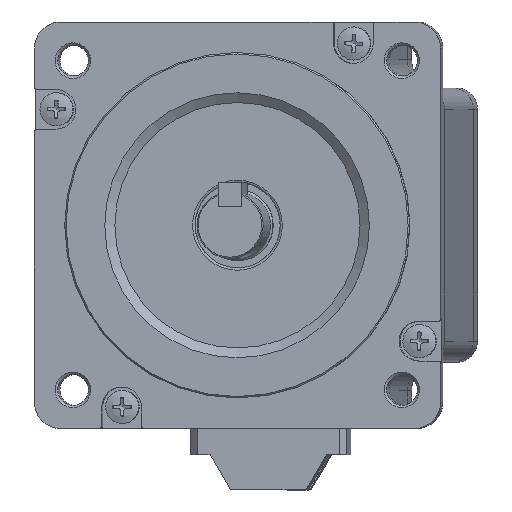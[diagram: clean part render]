
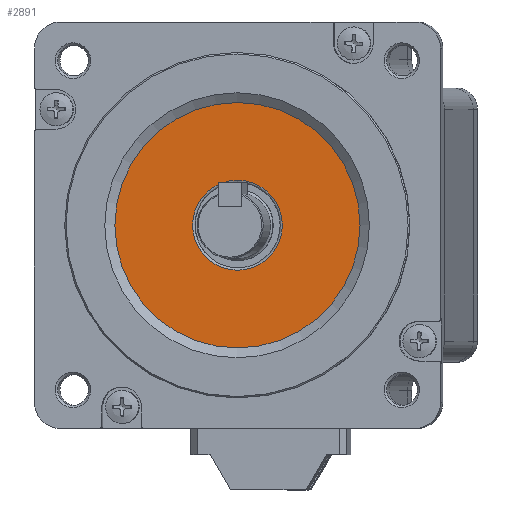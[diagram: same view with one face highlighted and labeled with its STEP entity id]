
A CAD part, front view. The second image highlights one B-rep face of the part: STEP entity #2891.
In plain terms, the highlighted planar face has unit normal (-0.05, -0.999, 0) as drawn and (0, -1, 0) by its records, which use the part's own axes.
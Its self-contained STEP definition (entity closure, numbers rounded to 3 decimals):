
#60=CARTESIAN_POINT('',(25.935,-17.1,0.));
#61=VERTEX_POINT('',#60);
#68=CARTESIAN_POINT('',(0.,-17.1,0.));
#69=DIRECTION('',(1.,0.,0.));
#70=DIRECTION('',(0.,-1.,0.));
#71=AXIS2_PLACEMENT_3D('',#68,#70,#69);
#72=CIRCLE('',#71,25.935);
#73=EDGE_CURVE('',#61,#61,#72,.T.);
#2872=CARTESIAN_POINT('',(-7.503,-17.1,0.));
#2873=DIRECTION('',(1.,0.,0.));
#2874=DIRECTION('',(0.,-1.,0.));
#2875=AXIS2_PLACEMENT_3D('',#2872,#2874,#2873);
#2876=PLANE('',#2875);
#2877=ORIENTED_EDGE('',*,*,#73,.T.);
#2878=EDGE_LOOP('',(#2877));
#2879=FACE_OUTER_BOUND('',#2878,.T.);
#2880=CARTESIAN_POINT('',(9.5,-17.1,0.));
#2881=VERTEX_POINT('',#2880);
#2882=CARTESIAN_POINT('',(0.,-17.1,0.));
#2883=DIRECTION('',(1.,0.,0.));
#2884=DIRECTION('',(0.,-1.,0.));
#2885=AXIS2_PLACEMENT_3D('',#2882,#2884,#2883);
#2886=CIRCLE('',#2885,9.5);
#2887=EDGE_CURVE('',#2881,#2881,#2886,.T.);
#2888=ORIENTED_EDGE('E570',*,*,#2887,.F.);
#2889=EDGE_LOOP('',(#2888));
#2890=FACE_BOUND('',#2889,.T.);
#2891=ADVANCED_FACE('F90',(#2879,#2890),#2876,.T.);
